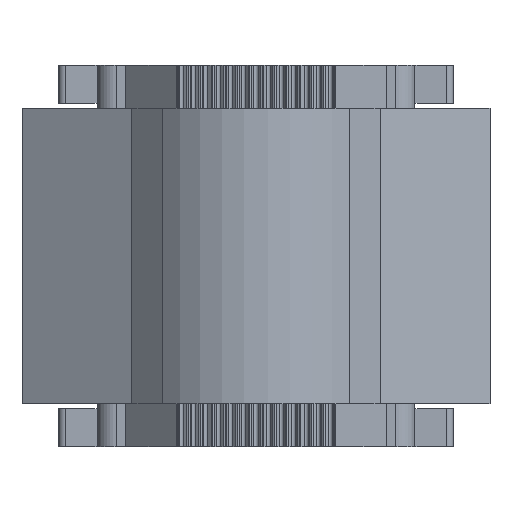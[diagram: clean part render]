
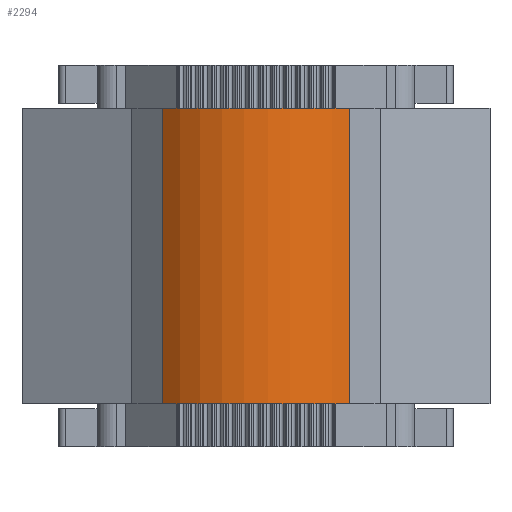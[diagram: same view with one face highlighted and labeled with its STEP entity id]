
A CAD part, front view. The second image highlights one B-rep face of the part: STEP entity #2294.
In plain terms, the highlighted cylindrical face has radius 10.4 mm (diameter 20.8 mm), a partial arc.
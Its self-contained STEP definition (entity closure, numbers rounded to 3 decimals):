
#2135 = VERTEX_POINT ( 'NONE', #8494 ) ;
#2137 = EDGE_CURVE ( 'NONE', #2135, #2138, #8493, .T. ) ;
#2138 = VERTEX_POINT ( 'NONE', #8488 ) ;
#2222 = VERTEX_POINT ( 'NONE', #8654 ) ;
#2249 = VERTEX_POINT ( 'NONE', #8734 ) ;
#2251 = EDGE_CURVE ( 'NONE', #2222, #2249, #8733, .T. ) ;
#2268 = ORIENTED_EDGE ( 'NONE', *, *, #2251, .T. ) ;
#2269 = ORIENTED_EDGE ( 'NONE', *, *, #2270, .F. ) ;
#2270 = EDGE_CURVE ( 'NONE', #2138, #2249, #8768, .T. ) ;
#2271 = ORIENTED_EDGE ( 'NONE', *, *, #2137, .F. ) ;
#2272 = ORIENTED_EDGE ( 'NONE', *, *, #2273, .T. ) ;
#2273 = EDGE_CURVE ( 'NONE', #2135, #2222, #8759, .T. ) ;
#2294 = ADVANCED_FACE ( 'NONE', ( #8782 ), #8780, .T. ) ;
#2295 = EDGE_LOOP ( 'NONE', ( #2268, #2269, #2271, #2272 ) ) ;
#8488 = CARTESIAN_POINT ( 'NONE',  ( 7.354, -3.326, 23.2 ) ) ;
#8489 = DIRECTION ( 'NONE',  ( 1., 0., 0. ) ) ;
#8490 = DIRECTION ( 'NONE',  ( 0., 0., 1. ) ) ;
#8491 = CARTESIAN_POINT ( 'NONE',  ( 0., 4.028, 23.2 ) ) ;
#8492 = AXIS2_PLACEMENT_3D ( 'NONE', #8491, #8490, #8489 ) ;
#8493 = CIRCLE ( 'NONE', #8492, 10.4 ) ;
#8494 = CARTESIAN_POINT ( 'NONE',  ( -7.354, -3.326, 23.2 ) ) ;
#8654 = CARTESIAN_POINT ( 'NONE',  ( -7.354, -3.326, 0. ) ) ;
#8729 = DIRECTION ( 'NONE',  ( 1., 0., 0. ) ) ;
#8730 = DIRECTION ( 'NONE',  ( 0., 0., 1. ) ) ;
#8731 = CARTESIAN_POINT ( 'NONE',  ( 0., 4.028, 0. ) ) ;
#8732 = AXIS2_PLACEMENT_3D ( 'NONE', #8731, #8730, #8729 ) ;
#8733 = CIRCLE ( 'NONE', #8732, 10.4 ) ;
#8734 = CARTESIAN_POINT ( 'NONE',  ( 7.354, -3.326, 0. ) ) ;
#8756 = DIRECTION ( 'NONE',  ( 0., 0., -1. ) ) ;
#8757 = VECTOR ( 'NONE', #8756, 1000. ) ;
#8758 = CARTESIAN_POINT ( 'NONE',  ( -7.354, -3.326, 23.2 ) ) ;
#8759 = LINE ( 'NONE', #8758, #8757 ) ;
#8760 = DIRECTION ( 'NONE',  ( 0., 0., -1. ) ) ;
#8761 = VECTOR ( 'NONE', #8760, 1000. ) ;
#8762 = CARTESIAN_POINT ( 'NONE',  ( 7.354, -3.326, 23.2 ) ) ;
#8768 = LINE ( 'NONE', #8762, #8761 ) ;
#8776 = DIRECTION ( 'NONE',  ( -1., 0., 0. ) ) ;
#8777 = DIRECTION ( 'NONE',  ( 0., 0., -1. ) ) ;
#8778 = CARTESIAN_POINT ( 'NONE',  ( 0., 4.028, 23.2 ) ) ;
#8779 = AXIS2_PLACEMENT_3D ( 'NONE', #8778, #8777, #8776 ) ;
#8780 = CYLINDRICAL_SURFACE ( 'NONE', #8779, 10.4 ) ;
#8782 = FACE_OUTER_BOUND ( 'NONE', #2295, .T. ) ;
